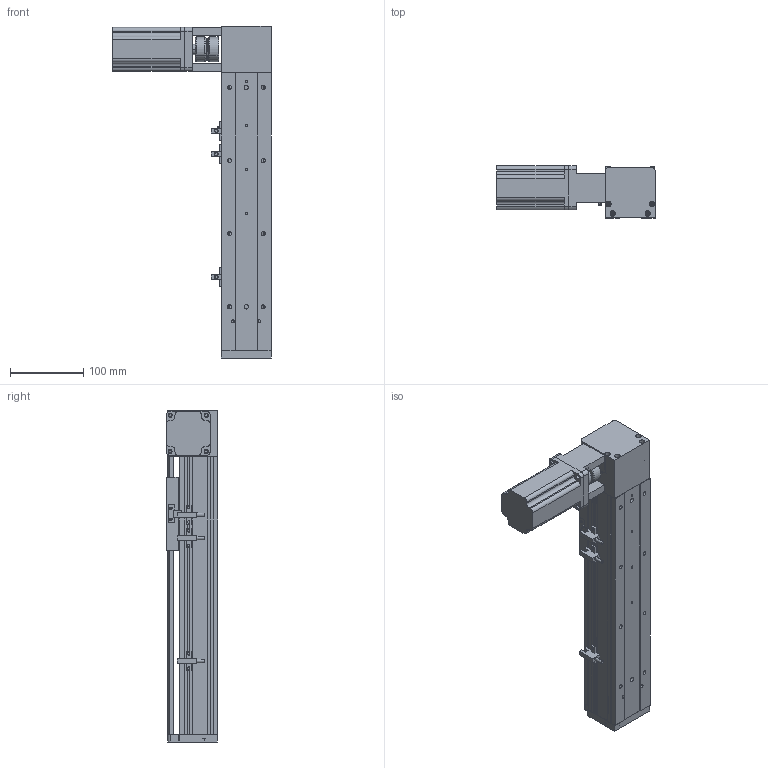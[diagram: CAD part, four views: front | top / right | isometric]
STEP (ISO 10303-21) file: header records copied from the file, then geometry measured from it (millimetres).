
FILE_DESCRIPTION (( 'STEP AP203' ), '1' );
FILE_NAME ('ML68-S200-BL.STEP', '2016-06-01T03:00:57', ( '微软用户' ), ( '微软中国' ), 'SwSTEP 2.0', 'SolidWorks 2014', '' );
FILE_SCHEMA (( 'CONFIG_CONTROL_DESIGN' ));
Length unit declared in the file: millimetre
Products named in the file (11): ML68-奻裔^ML68-S200-BL; ML68-BL傷啣; ML68雄赽釱; 60換覜結え; ML68-S200-BL; ML68-菁釱^ML68-S200-BL; ML68傷啣; 換覜ん; 三协电机MH201N2_預設; 联轴器（CS34X32-8X14）_預設; MS68-TS0204鎮湛嘐隅釱_蕼偞
Assembly tree (12 placements, depth 2):
  ML68-S200-BL
    ML68-BL傷啣
    60換覜結え
    ML68-菁釱^ML68-S200-BL
    ML68傷啣
    換覜ん  x3
    三协电机MH201N2_預設
    联轴器（CS34X32-8X14）_預設
    MS68-TS0204鎮湛嘐隅釱_蕼偞
    ML68-奻裔^ML68-S200-BL
    ML68雄赽釱
Bounding box: 216.5 x 70.5 x 454 mm (x, y, z)
Volume: 1195040.9 mm3; surface area: 362665.2 mm2
Topology: 13 solids, 13 shells, 805 faces, 2181 edges, 1381 vertices
Faces by surface type: cylinder 367, plane 334, cone 96, bspline 8
Entity records: 25224 total; most frequent: CARTESIAN_POINT 4846, DIRECTION 4141, ORIENTED_EDGE 3886, EDGE_CURVE 1943, AXIS2_PLACEMENT_3D 1510, VERTEX_POINT 1269, VECTOR 1121, LINE 1121
